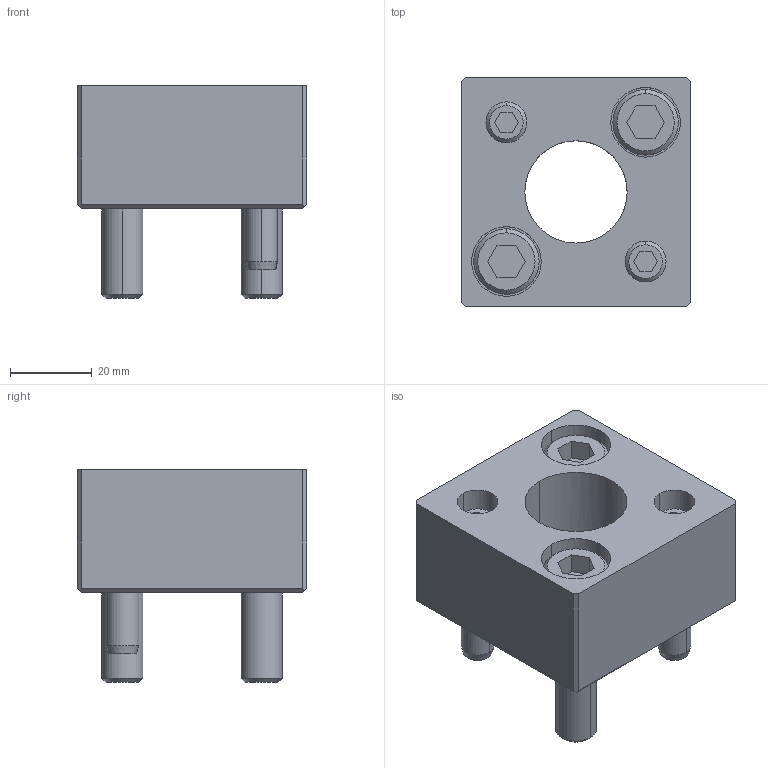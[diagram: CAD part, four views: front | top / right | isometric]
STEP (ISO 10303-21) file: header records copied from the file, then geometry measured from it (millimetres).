
FILE_DESCRIPTION(/* description */ (''),/* implementation_level */ '2;1');
FILE_NAME(/* name */ '3d_mpdr25_04594_r00.stp',/* time_stamp */ '2011-01-10T14:13:29+09:00',/* author */ ('MISUMI'),/* organization */ (''),/* preprocessor_version */ 'ST-DEVELOPER v11',/* originating_system */ 'UGS - NX 5.0',/* authorisation */ '');
FILE_SCHEMA (('CONFIG_CONTROL_DESIGN'));
Length unit declared in the file: millimetre
Products named in the file (1): 3d_mpdr25_04594_r00
Bounding box: 56 x 56 x 52 mm (x, y, z)
Volume: 79318.8 mm3; surface area: 25346.7 mm2
Topology: 7 solids, 7 shells, 139 faces, 311 edges, 200 vertices
Faces by surface type: plane 68, cylinder 45, cone 26
Entity records: 3991 total; most frequent: DIRECTION 701, CARTESIAN_POINT 696, ORIENTED_EDGE 622, EDGE_CURVE 311, AXIS2_PLACEMENT_3D 257, VERTEX_POINT 200, LINE 187, VECTOR 187
